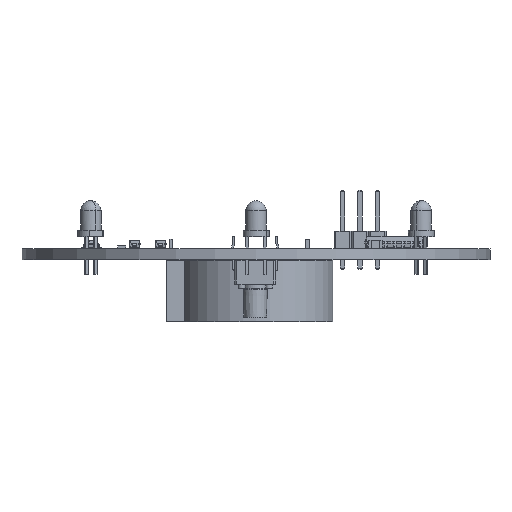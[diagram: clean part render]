
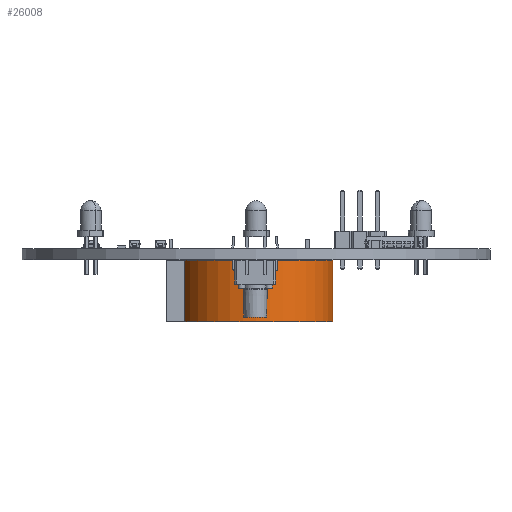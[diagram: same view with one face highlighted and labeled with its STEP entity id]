
A CAD part, front view. The second image highlights one B-rep face of the part: STEP entity #26008.
In plain terms, the highlighted cylindrical face has radius 11.176 mm (diameter 22.352 mm), a partial arc.
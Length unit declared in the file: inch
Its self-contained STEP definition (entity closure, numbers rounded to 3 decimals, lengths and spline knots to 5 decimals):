
#3633 = CARTESIAN_POINT ( 'NONE',  ( 0.443, 0., -0.00197 ) ) ;
#3876 = CARTESIAN_POINT ( 'NONE',  ( 0.003, 0., -0.00197 ) ) ;
#5150 = EDGE_CURVE ( 'NONE', #15504, #41824, #7765, .T. ) ;
#5238 = AXIS2_PLACEMENT_3D ( 'NONE', #3876, #38125, #16329 ) ;
#7182 = VECTOR ( 'NONE', #38201, 39.37008 ) ;
#7765 = LINE ( 'NONE', #38539, #27048 ) ;
#10265 = EDGE_CURVE ( 'NONE', #16244, #44673, #56773, .T. ) ;
#10585 = ORIENTED_EDGE ( 'NONE', *, *, #5150, .T. ) ;
#10660 = DIRECTION ( 'NONE',  ( 1., 0., 0. ) ) ;
#15504 = VERTEX_POINT ( 'NONE', #33677 ) ;
#16244 = VERTEX_POINT ( 'NONE', #50320 ) ;
#16329 = DIRECTION ( 'NONE',  ( -1., 0., 0. ) ) ;
#18315 = AXIS2_PLACEMENT_3D ( 'NONE', #31498, #54168, #22476 ) ;
#22255 = ORIENTED_EDGE ( 'NONE', *, *, #36104, .F. ) ;
#22476 = DIRECTION ( 'NONE',  ( -1., 0., 0. ) ) ;
#23703 = EDGE_LOOP ( 'NONE', ( #22255, #10585, #41886, #25557 ) ) ;
#25166 = EDGE_CURVE ( 'NONE', #41824, #44673, #55272, .T. ) ;
#25557 = ORIENTED_EDGE ( 'NONE', *, *, #10265, .F. ) ;
#26008 = ADVANCED_FACE ( 'NONE', ( #55069 ), #33564, .T. ) ;
#26240 = CARTESIAN_POINT ( 'NONE',  ( -0.41064, -0.15, -0.35597 ) ) ;
#27048 = VECTOR ( 'NONE', #56824, 39.37008 ) ;
#31498 = CARTESIAN_POINT ( 'NONE',  ( 0.003, 0., -0.35597 ) ) ;
#33165 = CIRCLE ( 'NONE', #18315, 0.44 ) ;
#33564 = CYLINDRICAL_SURFACE ( 'NONE', #48809, 0.44 ) ;
#33677 = CARTESIAN_POINT ( 'NONE',  ( 0.443, 0., -0.35597 ) ) ;
#36104 = EDGE_CURVE ( 'NONE', #15504, #16244, #33165, .T. ) ;
#38125 = DIRECTION ( 'NONE',  ( 0., 0., -1. ) ) ;
#38201 = DIRECTION ( 'NONE',  ( 0., 0., 1. ) ) ;
#38539 = CARTESIAN_POINT ( 'NONE',  ( 0.443, 0., -0.35597 ) ) ;
#41824 = VERTEX_POINT ( 'NONE', #3633 ) ;
#41886 = ORIENTED_EDGE ( 'NONE', *, *, #25166, .T. ) ;
#44334 = CARTESIAN_POINT ( 'NONE',  ( -0.41064, -0.15, -0.00197 ) ) ;
#44673 = VERTEX_POINT ( 'NONE', #44334 ) ;
#48809 = AXIS2_PLACEMENT_3D ( 'NONE', #51549, #50411, #10660 ) ;
#50320 = CARTESIAN_POINT ( 'NONE',  ( -0.41064, -0.15, -0.35597 ) ) ;
#50411 = DIRECTION ( 'NONE',  ( 0., 0., 1. ) ) ;
#51549 = CARTESIAN_POINT ( 'NONE',  ( 0.003, 0., -0.35597 ) ) ;
#54168 = DIRECTION ( 'NONE',  ( 0., 0., -1. ) ) ;
#55069 = FACE_OUTER_BOUND ( 'NONE', #23703, .T. ) ;
#55272 = CIRCLE ( 'NONE', #5238, 0.44 ) ;
#56773 = LINE ( 'NONE', #26240, #7182 ) ;
#56824 = DIRECTION ( 'NONE',  ( 0., 0., 1. ) ) ;
